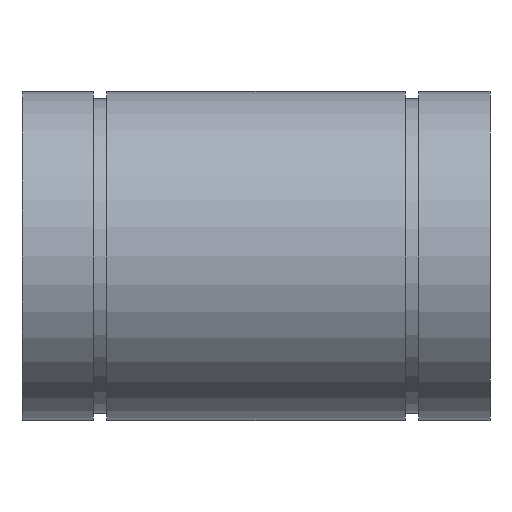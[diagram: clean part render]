
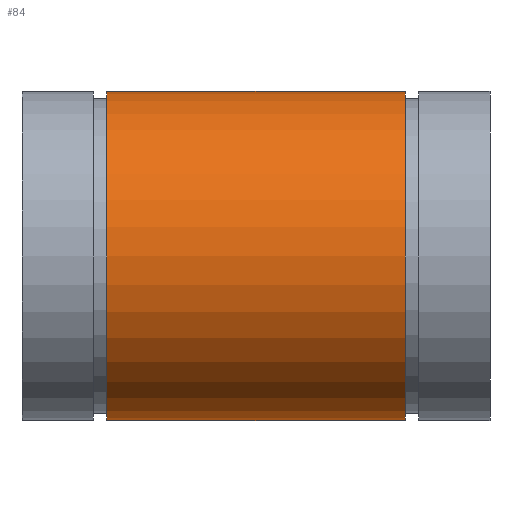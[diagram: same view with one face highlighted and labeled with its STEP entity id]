
A CAD part, front view. The second image highlights one B-rep face of the part: STEP entity #84.
In plain terms, the highlighted cylindrical face has radius 22.5 mm (diameter 45 mm), a partial arc.
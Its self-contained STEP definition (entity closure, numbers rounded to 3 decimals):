
#8 = CYLINDRICAL_SURFACE ( 'NONE', #519, 22.5 ) ;
#32 = CARTESIAN_POINT ( 'NONE',  ( 20.4, 0., -22.5 ) ) ;
#37 = CARTESIAN_POINT ( 'NONE',  ( 32., 0., -22.5 ) ) ;
#67 = ORIENTED_EDGE ( 'NONE', *, *, #407, .T. ) ;
#72 = VERTEX_POINT ( 'NONE', #92 ) ;
#84 = ADVANCED_FACE ( 'NONE', ( #179 ), #8, .T. ) ;
#92 = CARTESIAN_POINT ( 'NONE',  ( -20.4, 0., -22.5 ) ) ;
#93 = LINE ( 'NONE', #415, #473 ) ;
#104 = AXIS2_PLACEMENT_3D ( 'NONE', #377, #175, #300 ) ;
#133 = DIRECTION ( 'NONE',  ( -1., 0., 0. ) ) ;
#136 = DIRECTION ( 'NONE',  ( -1., 0., 0. ) ) ;
#152 = DIRECTION ( 'NONE',  ( -1., 0., 0. ) ) ;
#166 = ORIENTED_EDGE ( 'NONE', *, *, #516, .T. ) ;
#172 = EDGE_CURVE ( 'NONE', #189, #72, #312, .T. ) ;
#175 = DIRECTION ( 'NONE',  ( 1., 0., 0. ) ) ;
#179 = FACE_OUTER_BOUND ( 'NONE', #268, .T. ) ;
#189 = VERTEX_POINT ( 'NONE', #32 ) ;
#244 = DIRECTION ( 'NONE',  ( 0., 0., -1. ) ) ;
#254 = DIRECTION ( 'NONE',  ( 0., 0., -1. ) ) ;
#268 = EDGE_LOOP ( 'NONE', ( #352, #67, #166, #322 ) ) ;
#285 = EDGE_CURVE ( 'NONE', #518, #189, #356, .T. ) ;
#300 = DIRECTION ( 'NONE',  ( 0., 0., -1. ) ) ;
#312 = LINE ( 'NONE', #37, #466 ) ;
#322 = ORIENTED_EDGE ( 'NONE', *, *, #172, .F. ) ;
#331 = CARTESIAN_POINT ( 'NONE',  ( 32., 0., 0. ) ) ;
#349 = VERTEX_POINT ( 'NONE', #439 ) ;
#352 = ORIENTED_EDGE ( 'NONE', *, *, #285, .F. ) ;
#356 = CIRCLE ( 'NONE', #360, 22.5 ) ;
#357 = DIRECTION ( 'NONE',  ( 1., 0., 0. ) ) ;
#360 = AXIS2_PLACEMENT_3D ( 'NONE', #509, #357, #244 ) ;
#377 = CARTESIAN_POINT ( 'NONE',  ( -20.4, 0., 0. ) ) ;
#401 = CIRCLE ( 'NONE', #104, 22.5 ) ;
#407 = EDGE_CURVE ( 'NONE', #518, #349, #93, .T. ) ;
#409 = CARTESIAN_POINT ( 'NONE',  ( 20.4, 0., 22.5 ) ) ;
#415 = CARTESIAN_POINT ( 'NONE',  ( 32., 0., 22.5 ) ) ;
#439 = CARTESIAN_POINT ( 'NONE',  ( -20.4, 0., 22.5 ) ) ;
#466 = VECTOR ( 'NONE', #152, 1000. ) ;
#473 = VECTOR ( 'NONE', #136, 1000. ) ;
#509 = CARTESIAN_POINT ( 'NONE',  ( 20.4, 0., 0. ) ) ;
#516 = EDGE_CURVE ( 'NONE', #349, #72, #401, .T. ) ;
#518 = VERTEX_POINT ( 'NONE', #409 ) ;
#519 = AXIS2_PLACEMENT_3D ( 'NONE', #331, #133, #254 ) ;
